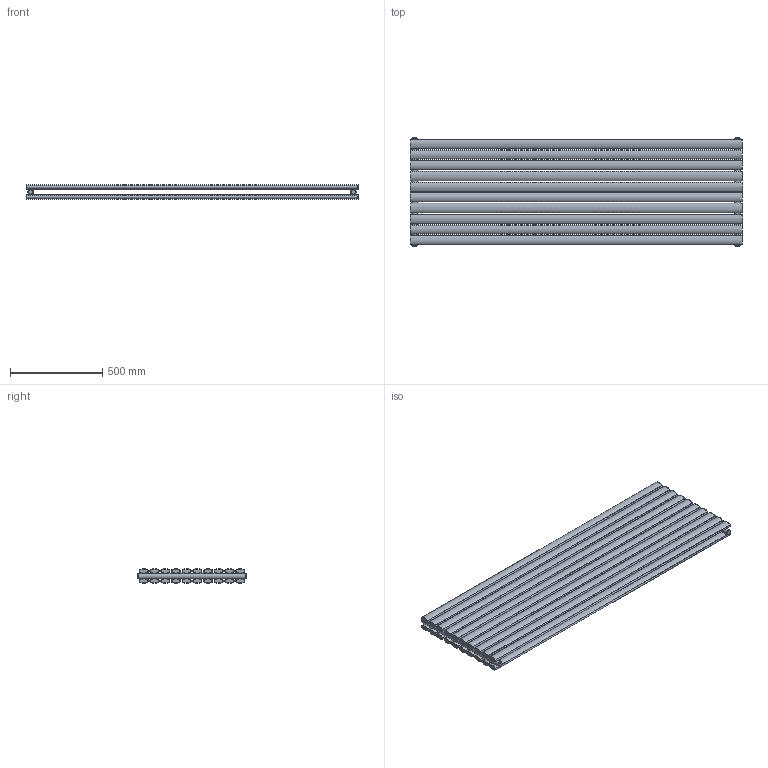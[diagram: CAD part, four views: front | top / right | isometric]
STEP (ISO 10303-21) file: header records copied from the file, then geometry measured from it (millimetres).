
FILE_DESCRIPTION(/* description */ (''),/* implementation_level */ '2;1');
FILE_NAME(/* name */ 'C:\Grzejniki\13DLUXRAD\pokojowe\FORTUNA\FORTUNA PODWÓJNA 1800x584.iam.stp',/* time_stamp */ '2016-06-28T17:31:52+02:00',/* author */ ('m.szydziak'),/* organization */ (''),/* preprocessor_version */ 'ST-DEVELOPER v16.5',/* originating_system */ 'Autodesk Inventor 2017',/* authorisation */ '');
FILE_SCHEMA (('AUTOMOTIVE_DESIGN { 1 0 10303 214 3 1 1 }'));
Length unit declared in the file: millimetre
Products named in the file (5): FORTUNA PODWÓJNA 1800x584; %%c30x1,5x584; 50x25x1,2x1800; zaślepka fi30 G0,5inch; korek
Assembly tree (30 placements, depth 2):
  FORTUNA PODWÓJNA 1800x584
    %%c30x1,5x584  x2
    50x25x1,2x1800  x20
    zaślepka fi30 G0,5inch  x4
    korek  x4
Bounding box: 1800 x 596 x 78.22 mm (x, y, z)
Volume: 5248723.9 mm3; surface area: 8686449.9 mm2
Topology: 30 solids, 30 shells, 384 faces, 976 edges, 692 vertices
Faces by surface type: cylinder 236, plane 148
Full cylindrical faces by diameter (mm): 5 x20, 5.8 x40, 18.631 x4, 24 x4, 27 x6, 30 x2
Entity records: 2517 total; most frequent: CARTESIAN_POINT 1088, DIRECTION 270, ORIENTED_EDGE 210, AXIS2_PLACEMENT_3D 119, EDGE_CURVE 105, EDGE_LOOP 92, VERTEX_POINT 85, FACE_OUTER_BOUND 47
